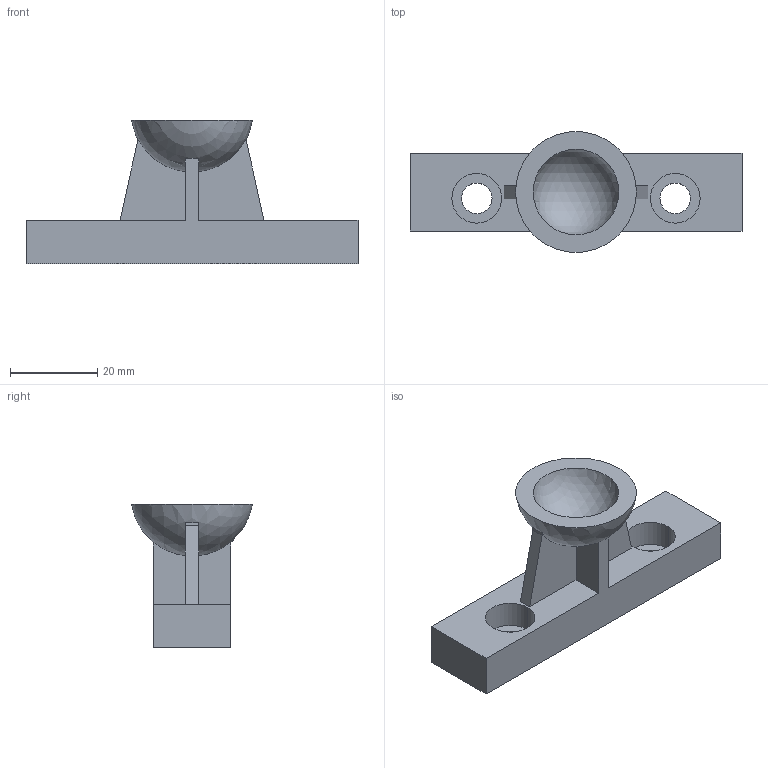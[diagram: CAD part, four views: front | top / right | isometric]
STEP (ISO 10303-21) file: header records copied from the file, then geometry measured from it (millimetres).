
FILE_DESCRIPTION((''),'2;1');
FILE_NAME('QK4','2023-11-27T14:11:40',('95204'),(''),'CREO PARAMETRIC BY PTC INC, 2021023','CREO PARAMETRIC BY PTC INC, 2021023','');
FILE_SCHEMA(('CONFIG_CONTROL_DESIGN'));
Length unit declared in the file: millimetre
Products named in the file (1): QK4
Bounding box: 76.1 x 27.71 x 33 mm (x, y, z)
Volume: 16788.2 mm3; surface area: 7925.4 mm2
Topology: 1 solids, 1 shells, 32 faces, 82 edges, 56 vertices
Faces by surface type: plane 22, cylinder 8, sphere 2
Entity records: 1036 total; most frequent: DIRECTION 178, CARTESIAN_POINT 170, ORIENTED_EDGE 164, EDGE_CURVE 82, AXIS2_PLACEMENT_3D 64, VERTEX_POINT 56, VECTOR 50, LINE 50
